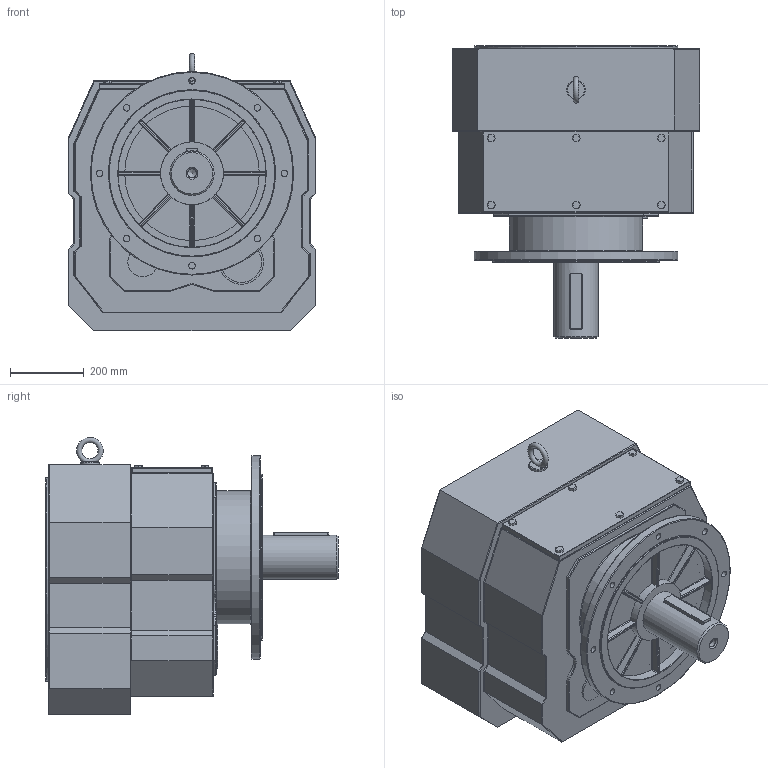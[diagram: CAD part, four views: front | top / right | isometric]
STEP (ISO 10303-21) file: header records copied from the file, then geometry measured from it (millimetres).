
FILE_DESCRIPTION((''),'2;1');
FILE_NAME('D:\PAWEŁ\ZLECENIA\2011 DualSystem\Przekładnie DR\DR160\STEP\DRF160_fi 550.stp','2012-06-11T12:59:26',('admin'),(''),'Autodesk Inventor 2009','Autodesk Inventor 2009','');
FILE_SCHEMA(('AUTOMOTIVE_DESIGN { 1 0 10303 214 1 1 1 1 }'));
Length unit declared in the file: millimetre
Products named in the file (1): DRF160_fi 550
Bounding box: 670 x 790 x 748.94 mm (x, y, z)
Volume: 196810389.2 mm3; surface area: 2805375.6 mm2
Topology: 2 solids, 2 shells, 508 faces, 1222 edges, 694 vertices
Faces by surface type: cylinder 231, plane 165, bspline 47, sphere 44, torus 19, cone 2
Full cylindrical faces by diameter (mm): 50 x1, 80 x1, 110 x1, 120 x2, 170 x1, 360 x1, 400 x1, 410 x1, 450 x1, 550 x2
Entity records: 18427 total; most frequent: CARTESIAN_POINT 6740, DIRECTION 2502, ORIENTED_EDGE 2272, EDGE_CURVE 1136, AXIS2_PLACEMENT_3D 947, VERTEX_POINT 681, VECTOR 608, LINE 608
